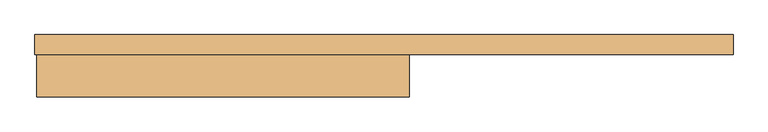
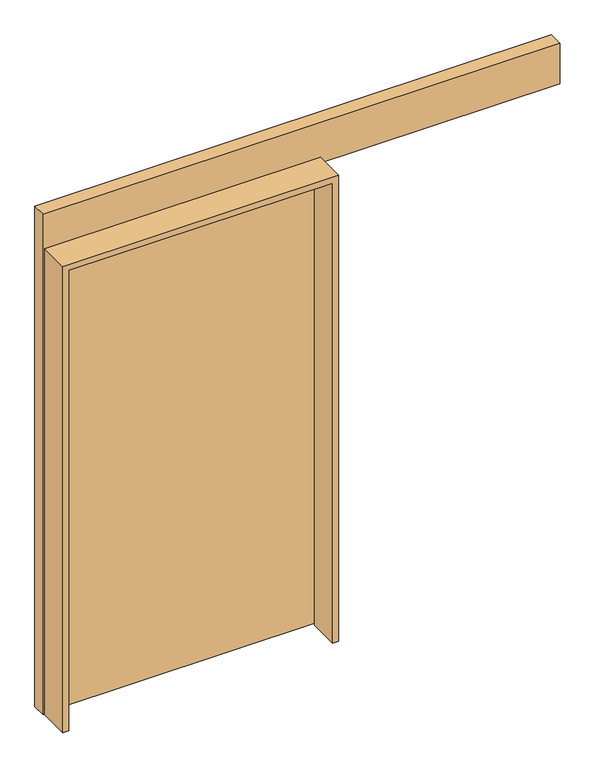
"""IFC4 building model written with IfcOpenShell, lengths in millimetres: door geometry, 営_引戸／引込戸 : LD1 960*2000."""

from ifc_helpers import new_model, si_unit, frame, origin, origin_with_axes, place, context, project, spatial, polyline, outline, extrude, source, transform, mapped, element, save


def door_7458d189(model_context):
    return source(origin(), model_context, "Body", "SweptSolid", [
        extrude(outline(polyline([(555.0, 70.0), (-555.0, 70.0), (-555.0, 110.0), (555.0, 110.0), (555.0, 70.0)])), origin_with_axes(), (0.0, 0.0, 1.0), 2000.0),
        extrude(outline(polyline([(0.0, 530.0), (0.0, 555.0), (2025.0, 555.0), (2025.0, -580.0), (0.0, -580.0), (0.0, -555.0), (2000.0, -555.0), (2000.0, 530.0), (0.0, 530.0)])), frame((0.0, -70.0, 0.0), z_axis=(0.0, 1.0, 0.0), x_axis=(0.0, 0.0, 1.0)), (0.0, 0.0, 1.0), 130.0),
        extrude(outline(polyline([(2175.0, -585.0), (0.0, -585.0), (0.0, -555.0), (2000.0, -555.0), (2000.0, 1540.0), (2175.0, 1540.0), (2175.0, -585.0)])), frame((0.0, 60.0, 0.0), z_axis=(0.0, 1.0, 0.0), x_axis=(0.0, 0.0, 1.0)), (0.0, 0.0, 1.0), 60.0),
    ])


if __name__ == "__main__":
    model = new_model("IFC4")
    model_context = context("Model", 3, world=origin())
    ifc_project = project(units=[si_unit("LENGTHUNIT", "METRE", prefix="MILLI")], contexts=[model_context])
    site = spatial("IfcSite", under=ifc_project)
    building = spatial("IfcBuilding", under=site)
    placement = place(None, origin())
    door_shape = door_7458d189(model_context)
    element("IfcDoor", 1, ObjectType="営_引戸／引込戸 : LD1 960*2000", at=placement, inside=building, context=model_context, shape_type="MappedRepresentation", body=[
        mapped(door_shape, transform((0.0, 0.0, 0.0), x_axis=(1.0, 0.0, 0.0), y_axis=(0.0, 1.0, 0.0), z_axis=(0.0, 0.0, 1.0))),
    ])
    save(model, "model.ifc")
